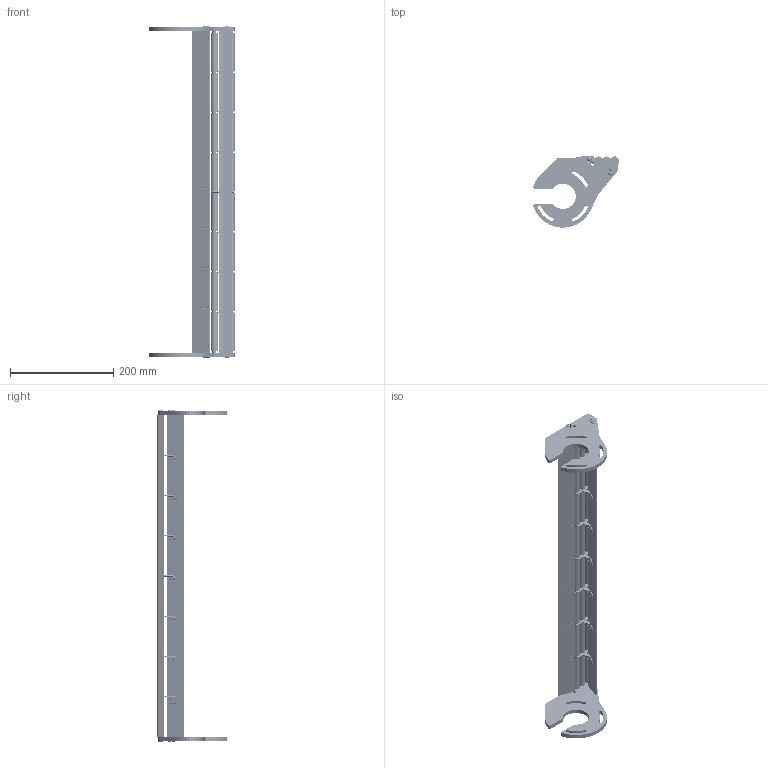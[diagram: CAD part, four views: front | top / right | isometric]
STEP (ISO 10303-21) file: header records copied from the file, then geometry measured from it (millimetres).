
FILE_DESCRIPTION (( 'STEP AP214' ), '1' );
FILE_NAME ('CAB 24 TGRI 1.STEP', '2024-02-27T08:07:02', ( '' ), ( '' ), 'SwSTEP 2.0', 'SolidWorks 2022', '' );
FILE_SCHEMA (( 'AUTOMOTIVE_DESIGN' ));
Length unit declared in the file: millimetre
Products named in the file (13): ENTRETOISE TGRI CAB-F2-R-HEF; AXE TGRI CAB 24; GR CAB 24; PT-F2 - CAB 24 ALU; CAB 24 TGRI 1; TBHC 4X16; SA TGRI + ENTRETOISE; PSTI CAB 1; SA TGRI; ROULEMENT TGRI CAB FLEXTOO; ENTRETOISE SA TGRI; PSTI CAB 1 Symétrie; Galet + roulement CAB 24
Assembly tree (59 placements, depth 3):
  CAB 24 TGRI 1
    PSTI CAB 1 Symétrie
    PSTI CAB 1
    PT-F2 - CAB 24 ALU  x2
    AXE TGRI CAB 24  x3
    ENTRETOISE TGRI CAB-F2-R-HEF  x6
    SA TGRI + ENTRETOISE  x7
      SA TGRI
      ENTRETOISE SA TGRI
    Galet + roulement CAB 24  x24
      GR CAB 24
      ROULEMENT TGRI CAB FLEXTOO
    TBHC 4X16  x8
Bounding box: 164.87 x 136.6 x 641.78 mm (x, y, z)
Volume: 793492.3 mm3; surface area: 384756.8 mm2
Topology: 121 solids, 121 shells, 4119 faces, 9273 edges, 5559 vertices
Faces by surface type: cylinder 1529, cone 1040, plane 723, torus 701, sphere 91, bspline 35
Entity records: 18185 total; most frequent: CARTESIAN_POINT 3379, DIRECTION 3254, ORIENTED_EDGE 2674, EDGE_CURVE 1337, AXIS2_PLACEMENT_3D 1325, VERTEX_POINT 811, CIRCLE 695, EDGE_LOOP 632
